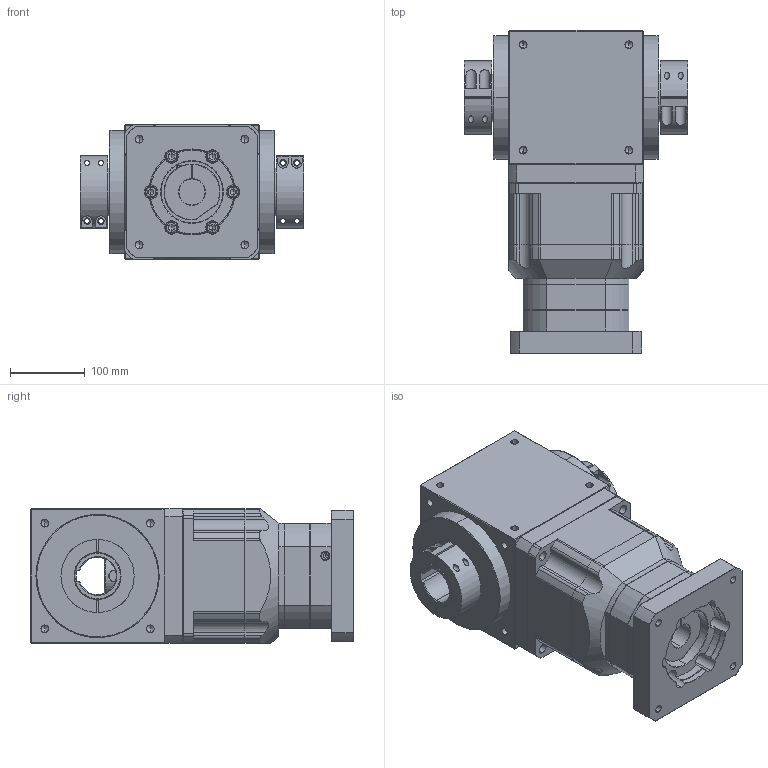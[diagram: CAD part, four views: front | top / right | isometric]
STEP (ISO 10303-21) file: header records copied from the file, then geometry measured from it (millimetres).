
FILE_DESCRIPTION (( 'STEP AP214' ), '1' );
FILE_NAME ('PAW180A-L2-2C-K(12-100) 35-114.3-200-M12.STEP', '2021-04-24T08:29:53', ( 'Microsoft' ), ( 'Microsoft China' ), 'SwSTEP 2.0', 'SolidWorks 2016', '' );
FILE_SCHEMA (( 'AUTOMOTIVE_DESIGN' ));
Length unit declared in the file: millimetre
Products named in the file (4): PAW180A-L2-2C-K(12-100) 35-114.3-200-M12; PAW180A-L1-L2-2C-K; 180標杶; PAW180L2-114.3-35-80-M12-200
Assembly tree (4 placements, depth 2):
  PAW180A-L2-2C-K(12-100) 35-114.3-200-M12
    PAW180A-L1-L2-2C-K
    180標杶  x2
    PAW180L2-114.3-35-80-M12-200
Bounding box: 299 x 433 x 180 mm (x, y, z)
Volume: 12676224.6 mm3; surface area: 836498.3 mm2
Topology: 19 solids, 19 shells, 945 faces, 2428 edges, 1506 vertices
Faces by surface type: cylinder 410, plane 354, cone 155, torus 22, bspline 4
Entity records: 40557 total; most frequent: CARTESIAN_POINT 8331, DIRECTION 4797, ORIENTED_EDGE 4508, EDGE_CURVE 2254, AXIS2_PLACEMENT_3D 1869, VERTEX_POINT 1434, LINE 1059, VECTOR 1059
